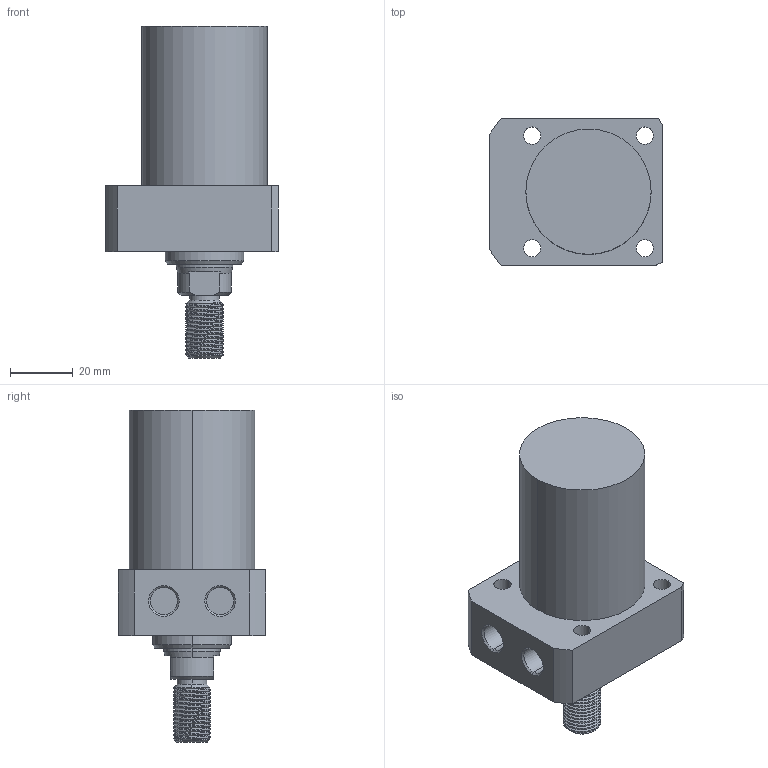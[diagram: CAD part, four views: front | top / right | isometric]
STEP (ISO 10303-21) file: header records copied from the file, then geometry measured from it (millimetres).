
FILE_DESCRIPTION (( 'STEP AP214' ), '1' );
FILE_NAME ('CLLR-040CT-040.STEP', '2020-01-08T10:53:15', ( 'Windows' ), ( 'Microsoft' ), 'SwSTEP 2.0', 'SolidWorks 2015', '' );
FILE_SCHEMA (( 'AUTOMOTIVE_DESIGN' ));
Length unit declared in the file: millimetre
Products named in the file (1): CLLR-040CT-040
Bounding box: 55 x 47 x 106 mm (x, y, z)
Volume: 120145.7 mm3; surface area: 19715.8 mm2
Topology: 1 solids, 1 shells, 93 faces, 237 edges, 154 vertices
Faces by surface type: cylinder 56, plane 20, cone 15, bspline 2
Entity records: 4518 total; most frequent: CARTESIAN_POINT 2305, ORIENTED_EDGE 474, DIRECTION 424, EDGE_CURVE 237, AXIS2_PLACEMENT_3D 166, VERTEX_POINT 154, EDGE_LOOP 109, FACE_OUTER_BOUND 93
